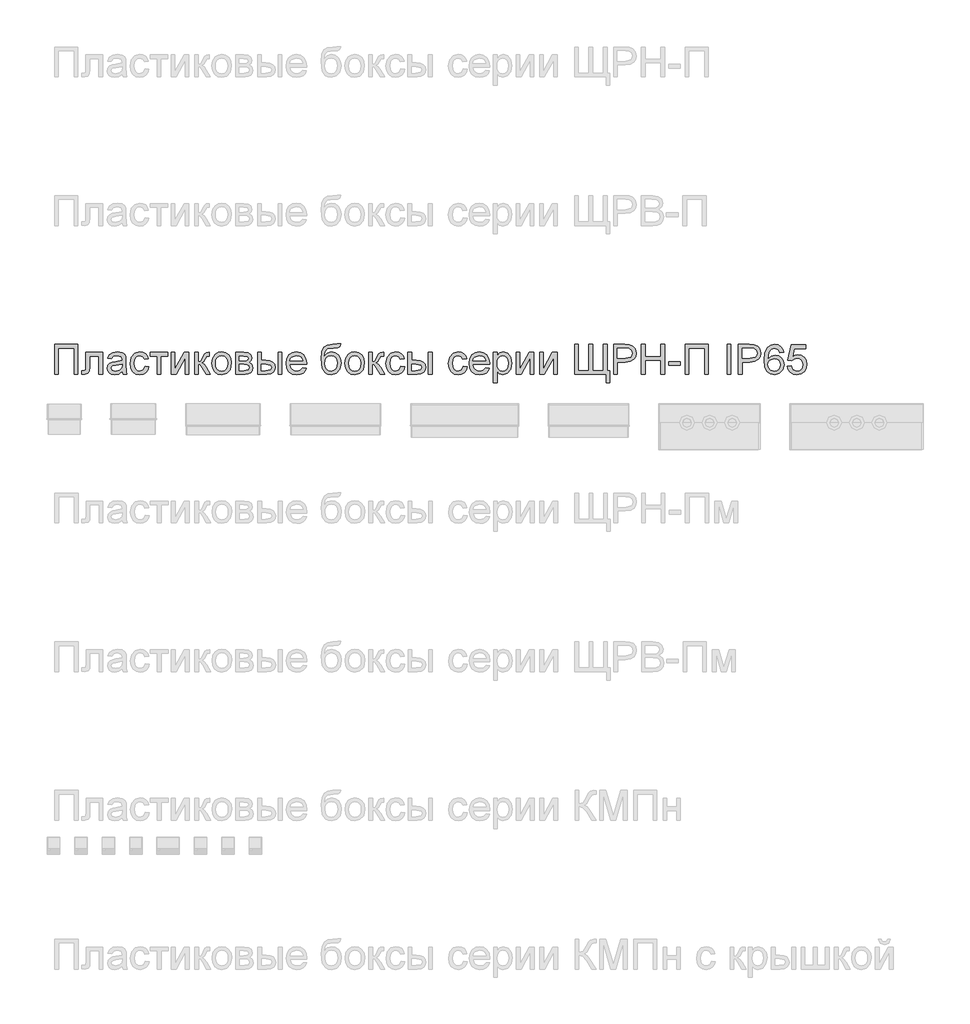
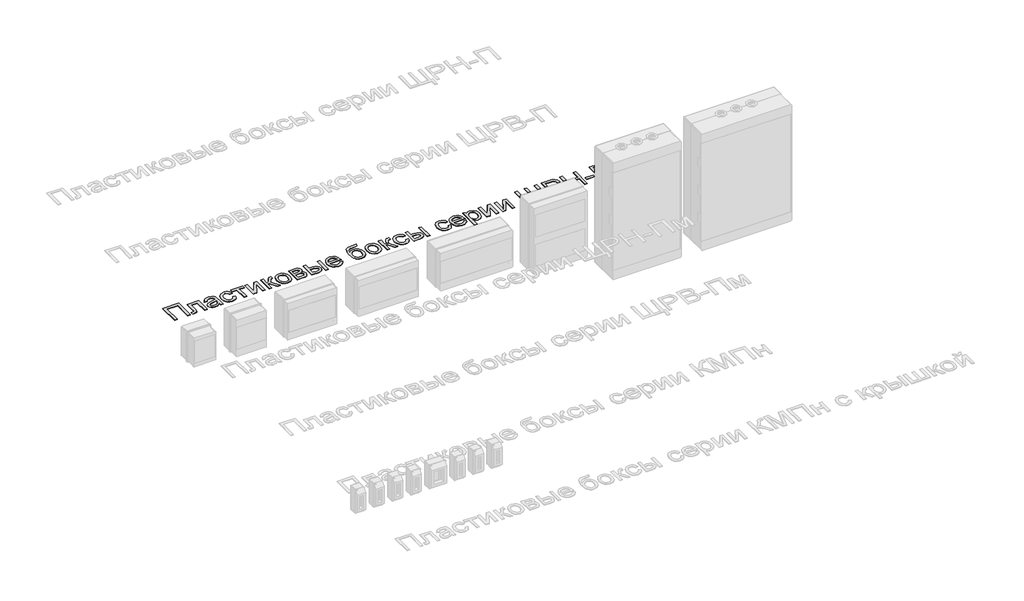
# One storey, part 24 of 25: 1 proxy.
"""IFC4 building model written with IfcOpenShell, lengths in millimetres."""

from ifc_helpers import new_model, si_unit, frame, origin, place, context, project, spatial, polyline, outline, extrude, element, save

model = new_model("IFC4")

# Units and contexts
model_context = context("Model", 3, world=origin())
ifc_project = project(units=[si_unit("LENGTHUNIT", "METRE", prefix="MILLI")], contexts=[model_context])

# Site, building, storey
site = spatial("IfcSite", under=ifc_project)
building = spatial("IfcBuilding", under=site)
storey = spatial("IfcBuildingStorey", under=building, Name="Этаж 01", Elevation=0.0)

# Proxy
placement = place(None, origin())
element("IfcBuildingElementProxy", 1, Name="Надпись на модели 1", ObjectType="Надпись на модели 1", at=placement, inside=storey, context=model_context, shape_type="SweptSolid", body=[
    extrude(outline(polyline([(-19039.0125911, 17636.6915941), (-18960.5310988, 17636.6915941), (-18960.5310988, 17536.235284), (-18973.0881375, 17536.235284), (-18973.0881375, 17624.1345554), (-19026.4555523, 17624.1345554), (-19026.4555523, 17536.235284), (-19039.0125911, 17536.235284), (-19039.0125911, 17636.6915941)])), frame((0.0, 0.0, 40.0), z_axis=(0.0, 0.0, 1.0), x_axis=(1.0, 0.0, 0.0)), (0.0, 0.0, 1.0), 2.0),
    extrude(outline(polyline([(-18933.8473914, 17610.0078868), (-18877.3407169, 17610.0078868), (-18877.3407169, 17536.3088604), (-18889.8977557, 17536.3088604), (-18889.8977557, 17597.450848), (-18921.2903526, 17597.450848), (-18921.2903526, 17562.2568038), (-18922.1364812, 17546.0209451), (-18926.7840571, 17539.1660772), (-18937.771466, 17536.235284), (-18947.97406, 17536.8729461), (-18947.97406, 17548.7923228), (-18942.3577282, 17548.7923228), (-18936.6800828, 17549.564875), (-18934.4114771, 17552.0174216), (-18933.8473914, 17562.9680423), (-18933.8473914, 17610.0078868)])), frame((0.0, 0.0, 40.0), z_axis=(0.0, 0.0, 1.0), x_axis=(1.0, 0.0, 0.0)), (0.0, 0.0, 1.0), 2.0),
    extrude(outline(polyline([(-18811.4162634, 17545.6530631), (-18823.5931574, 17537.1427262), (-18837.0453757, 17534.6656541), (-18847.5392096, 17536.1555762), (-18855.28006, 17540.6253425), (-18860.0533288, 17547.4127653), (-18861.6444185, 17555.8556571), (-18859.2409228, 17565.7884709), (-18852.9256152, 17572.998958), (-18844.1332355, 17577.1192364), (-18833.2684539, 17579.0076973), (-18811.4898398, 17583.3241794), (-18811.4162634, 17586.1200825), (-18814.8743541, 17595.3907088), (-18828.7557681, 17599.0204778), (-18841.4599597, 17596.6047194), (-18847.5177499, 17588.0330689), (-18860.0747886, 17589.6026988), (-18854.6423978, 17601.8654319), (-18843.7040398, 17609.0513936), (-18827.1370873, 17611.5775166), (-18811.9190355, 17609.3456992), (-18803.3228595, 17603.7416301), (-18799.4723613, 17595.2190306), (-18798.8592246, 17584.2316216), (-18798.8592246, 17568.6088996), (-18798.2215625, 17546.7934973), (-18795.7199649, 17536.235284), (-18808.2770037, 17536.235284), (-18811.4162634, 17545.6530631)]), holes=[polyline([(-18811.4162634, 17570.7671406), (-18831.6742986, 17566.9166424), (-18842.4777665, 17564.8810287), (-18847.3705971, 17561.5700907), (-18849.0873797, 17556.7385739), (-18845.3472461, 17549.9450197), (-18834.3720999, 17547.2226929), (-18821.6679083, 17550.2270625), (-18813.4764026, 17557.4988633), (-18811.4898398, 17567.210948), (-18811.4162634, 17570.7671406)])]), frame((0.0, 0.0, 40.0), z_axis=(0.0, 0.0, 1.0), x_axis=(1.0, 0.0, 0.0)), (0.0, 0.0, 1.0), 2.0),
    extrude(outline(polyline([(-18734.5044009, 17562.9189914), (-18721.9473622, 17561.3493615), (-18725.4483725, 17550.1810773), (-18732.0273288, 17541.7412512), (-18741.0649632, 17536.4345534), (-18751.9420075, 17534.6656541), (-18765.2991896, 17537.1335292), (-18775.7439726, 17544.5371544), (-18782.4854102, 17556.5515672), (-18784.732556, 17572.8518052), (-18780.8943205, 17593.7107144), (-18769.1956731, 17607.1138817), (-18752.1136858, 17611.5775166), (-18741.5033559, 17610.044675), (-18733.0206102, 17605.44615), (-18726.9352289, 17598.0271964), (-18723.516992, 17588.0330689), (-18736.0740308, 17586.4634391), (-18741.898829, 17595.8689554), (-18752.0155839, 17599.0204778), (-18760.1304476, 17597.4692421), (-18766.5714482, 17592.8155349), (-18770.7745, 17584.8079701), (-18772.1755172, 17573.1951618), (-18770.8051568, 17561.4260036), (-18766.6940755, 17553.3908477), (-18760.3695709, 17548.7647316), (-18752.3589404, 17547.2226929), (-18740.5254029, 17551.0731911), (-18734.5044009, 17562.9189914)])), frame((0.0, 0.0, 40.0), z_axis=(0.0, 0.0, 1.0), x_axis=(1.0, 0.0, 0.0)), (0.0, 0.0, 1.0), 2.0),
    extrude(outline(polyline([(-18717.2384726, 17610.0078868), (-18657.5925385, 17610.0078868), (-18657.5925385, 17597.450848), (-18681.1369862, 17597.450848), (-18681.1369862, 17536.235284), (-18693.6940249, 17536.235284), (-18693.6940249, 17597.450848), (-18717.2384726, 17597.450848), (-18717.2384726, 17610.0078868)])), frame((0.0, 0.0, 40.0), z_axis=(0.0, 0.0, 1.0), x_axis=(1.0, 0.0, 0.0)), (0.0, 0.0, 1.0), 2.0),
    extrude(outline(polyline([(-18646.6051296, 17610.0078868), (-18634.0480908, 17610.0078868), (-18634.0480908, 17553.746467), (-18603.1950541, 17610.0078868), (-18586.9591954, 17610.0078868), (-18586.9591954, 17536.235284), (-18599.5162342, 17536.235284), (-18599.5162342, 17592.1533473), (-18630.1730671, 17536.235284), (-18646.6051296, 17536.235284), (-18646.6051296, 17610.0078868)])), frame((0.0, 0.0, 40.0), z_axis=(0.0, 0.0, 1.0), x_axis=(1.0, 0.0, 0.0)), (0.0, 0.0, 1.0), 2.0),
    extrude(outline(polyline([(-18568.1236373, 17610.0078868), (-18555.5665985, 17610.0078868), (-18555.5665985, 17578.6152898), (-18547.1543635, 17580.8716327), (-18540.2627075, 17594.0172827), (-18534.5360111, 17605.3603109), (-18529.483765, 17609.0513936), (-18520.2989779, 17610.0078868), (-18517.8954822, 17610.0078868), (-18517.8954822, 17597.3772716), (-18521.2799965, 17597.450848), (-18527.4113631, 17596.1264728), (-18531.7278452, 17587.8613906), (-18536.792354, 17578.9218582), (-18543.8924765, 17574.5440624), (-18535.9707509, 17569.6573633), (-18528.196178, 17559.3627988), (-18514.7562225, 17536.235284), (-18529.0300439, 17536.235284), (-18542.2002193, 17558.8722894), (-18548.8220952, 17568.449484), (-18555.5665985, 17570.7671406), (-18555.5665985, 17536.235284), (-18568.1236373, 17536.235284), (-18568.1236373, 17610.0078868)])), frame((0.0, 0.0, 40.0), z_axis=(0.0, 0.0, 1.0), x_axis=(1.0, 0.0, 0.0)), (0.0, 0.0, 1.0), 2.0),
    extrude(outline(polyline([(-18510.0473329, 17573.1215854), (-18507.3311375, 17590.9086798), (-18499.1825514, 17603.4105363), (-18489.1148474, 17609.5357715), (-18477.0605807, 17611.5775166), (-18463.8689455, 17609.0912475), (-18453.332192, 17601.63244), (-18446.4252076, 17589.7897054), (-18444.1228794, 17574.151655), (-18448.1941068, 17551.8089551), (-18460.0521698, 17539.1660772), (-18477.0605807, 17534.6656541), (-18490.4116315, 17537.1427262), (-18500.9361222, 17544.5739426), (-18507.7695303, 17556.6649975), (-18510.0473329, 17573.1215854)]), holes=[polyline([(-18497.4902942, 17573.1461108), (-18496.0371603, 17561.7816229), (-18491.6777587, 17553.6851533), (-18485.1171964, 17548.838308), (-18477.0605807, 17547.2226929), (-18469.0407532, 17548.8475051), (-18462.4924537, 17553.7219415), (-18458.1330521, 17561.92571), (-18456.6799182, 17573.5385183), (-18458.1422491, 17584.5719125), (-18462.5292419, 17592.5580175), (-18469.0867385, 17597.4048627), (-18477.0605807, 17599.0204778), (-18485.1171964, 17597.4109941), (-18491.6777587, 17592.5825429), (-18496.0371603, 17584.5044674), (-18497.4902942, 17573.1461108)])]), frame((0.0, 0.0, 40.0), z_axis=(0.0, 0.0, 1.0), x_axis=(1.0, 0.0, 0.0)), (0.0, 0.0, 1.0), 2.0),
    extrude(outline(polyline([(-18429.9962108, 17610.0078868), (-18402.3314848, 17610.0078868), (-18387.1624838, 17608.3278923), (-18378.6276215, 17602.1720003), (-18375.0591662, 17591.4421087), (-18377.2174072, 17582.7233055), (-18383.7166558, 17576.5060997), (-18375.2798954, 17569.7002828), (-18371.9199065, 17557.8667453), (-18374.0474907, 17548.2956821), (-18379.1058681, 17541.5573102), (-18387.1134329, 17537.5657905), (-18398.0885791, 17536.235284), (-18429.9962108, 17536.235284), (-18429.9962108, 17610.0078868)]), holes=[polyline([(-18417.439172, 17548.7923228), (-18402.0371792, 17548.7923228), (-18388.3764944, 17551.0609284), (-18384.4769453, 17558.8968149), (-18386.6229236, 17564.9423424), (-18392.2147299, 17568.4617468), (-18403.2634525, 17569.1975108), (-18417.439172, 17569.1975108), (-18417.439172, 17548.7923228)]), polyline([(-18417.439172, 17581.7545495), (-18405.0292861, 17581.7545495), (-18394.7899039, 17582.3922117), (-18389.8112342, 17584.9428602), (-18387.616205, 17589.5536478), (-18391.4667032, 17595.7095399), (-18404.6368786, 17597.450848), (-18417.439172, 17597.450848), (-18417.439172, 17581.7545495)])]), frame((0.0, 0.0, 40.0), z_axis=(0.0, 0.0, 1.0), x_axis=(1.0, 0.0, 0.0)), (0.0, 0.0, 1.0), 2.0),
    extrude(outline(polyline([(-18287.1598948, 17610.0078868), (-18274.602856, 17610.0078868), (-18274.602856, 17536.235284), (-18287.1598948, 17536.235284), (-18287.1598948, 17610.0078868)])), frame((0.0, 0.0, 40.0), z_axis=(0.0, 0.0, 1.0), x_axis=(1.0, 0.0, 0.0)), (0.0, 0.0, 1.0), 2.0),
    extrude(outline(polyline([(-18356.223608, 17610.0078868), (-18343.6665693, 17610.0078868), (-18343.6665693, 17583.3241794), (-18328.1419491, 17583.3241794), (-18314.7234533, 17581.7514838), (-18304.7814424, 17577.0333973), (-18298.628616, 17569.5500643), (-18296.5776739, 17559.6816298), (-18298.2975222, 17550.6961121), (-18303.4570672, 17543.1146773), (-18312.393534, 17537.9551323), (-18325.4441478, 17536.235284), (-18356.223608, 17536.235284), (-18356.223608, 17610.0078868)]), holes=[polyline([(-18343.6665693, 17548.7923228), (-18330.766174, 17548.7923228), (-18314.1133823, 17551.4288104), (-18309.1347126, 17559.6571044), (-18312.8257953, 17567.3826263), (-18329.1229677, 17570.7671406), (-18343.6665693, 17570.7671406), (-18343.6665693, 17548.7923228)])]), frame((0.0, 0.0, 40.0), z_axis=(0.0, 0.0, 1.0), x_axis=(1.0, 0.0, 0.0)), (0.0, 0.0, 1.0), 2.0),
    extrude(outline(polyline([(-18204.1166658, 17558.2101018), (-18191.8048817, 17556.640472), (-18196.2409254, 17547.3637143), (-18203.3195881, 17540.4291387), (-18212.8814543, 17536.1065253), (-18224.7671084, 17534.6656541), (-18239.5007823, 17537.1519233), (-18250.8376791, 17544.6107308), (-18258.0665603, 17556.5576985), (-18260.4761874, 17572.5084487), (-18258.0420349, 17588.9956935), (-18250.7395773, 17601.3258717), (-18239.5559646, 17609.0146054), (-18225.4783469, 17611.5775166), (-18211.839122, 17609.0207367), (-18200.9406179, 17601.3503971), (-18193.7945101, 17589.0447444), (-18191.4124742, 17572.5820251), (-18191.4860506, 17569.1975108), (-18247.9191486, 17569.1975108), (-18245.7455792, 17559.7981258), (-18240.6963988, 17552.8880756), (-18233.4092696, 17548.6390386), (-18224.5218538, 17547.2226929), (-18212.2100697, 17549.8469178), (-18204.1166658, 17558.2101018)]), holes=[polyline([(-18247.9191486, 17581.7545495), (-18203.969513, 17581.7545495), (-18208.9972336, 17593.1343659), (-18216.3180853, 17597.5489499), (-18225.5273979, 17599.0204778), (-18240.9907044, 17594.323851), (-18245.8559438, 17588.8332123), (-18247.9191486, 17581.7545495)])]), frame((0.0, 0.0, 40.0), z_axis=(0.0, 0.0, 1.0), x_axis=(1.0, 0.0, 0.0)), (0.0, 0.0, 1.0), 2.0),
    extrude(outline(polyline([(-18087.8169043, 17638.261224), (-18076.8294954, 17638.261224), (-18080.066857, 17628.4633002), (-18086.4680037, 17624.9193703), (-18101.8454711, 17624.1345554), (-18122.5572274, 17621.2405503), (-18130.5034785, 17611.9699241), (-18133.1890171, 17595.5623871), (-18122.3119728, 17607.5798656), (-18108.2956687, 17611.5775166), (-18095.2297266, 17609.0360652), (-18084.6285937, 17601.4117108), (-18077.6020476, 17589.4524803), (-18075.2598656, 17573.9064003), (-18079.9074415, 17552.2994644), (-18090.9316386, 17539.2641791), (-18108.2956687, 17534.6656541), (-18119.6294999, 17536.1463792), (-18128.1245083, 17540.5885543), (-18138.9770271, 17555.7452925), (-18142.753949, 17587.9104416), (-18140.371913, 17612.0036466), (-18133.2258053, 17626.6974666), (-18121.1378161, 17634.1930623), (-18103.9301357, 17636.6915941), (-18089.9506199, 17636.973637), (-18087.8169043, 17638.261224)]), holes=[polyline([(-18087.8169043, 17574.2988078), (-18089.1780677, 17584.179505), (-18093.2615579, 17592.0920336), (-18099.8221201, 17597.2883668), (-18108.6144998, 17599.0204778), (-18117.7808929, 17597.1902649), (-18124.5805784, 17591.6996261), (-18128.7928272, 17583.1494354), (-18130.1969102, 17572.1405667), (-18128.6456744, 17561.4689232), (-18123.9919672, 17553.6361024), (-18117.063523, 17548.8260453), (-18108.6880762, 17547.2226929), (-18100.2697099, 17549.0774313), (-18093.6049144, 17554.6416465), (-18089.2639069, 17563.2654136), (-18087.8169043, 17574.2988078)])]), frame((0.0, 0.0, 40.0), z_axis=(0.0, 0.0, 1.0), x_axis=(1.0, 0.0, 0.0)), (0.0, 0.0, 1.0), 2.0),
    extrude(outline(polyline([(-18062.7028268, 17573.1215854), (-18059.9866314, 17590.9086798), (-18051.8380452, 17603.4105363), (-18041.7703413, 17609.5357715), (-18029.7160746, 17611.5775166), (-18016.5244394, 17609.0912475), (-18005.9876859, 17601.63244), (-17999.0807014, 17589.7897054), (-17996.7783733, 17574.151655), (-18000.8496007, 17551.8089551), (-18012.7076637, 17539.1660772), (-18029.7160746, 17534.6656541), (-18043.0671253, 17537.1427262), (-18053.5916161, 17544.5739426), (-18060.4250241, 17556.6649975), (-18062.7028268, 17573.1215854)]), holes=[polyline([(-18050.145788, 17573.1461108), (-18048.6926542, 17561.7816229), (-18044.3332525, 17553.6851533), (-18037.7726903, 17548.838308), (-18029.7160746, 17547.2226929), (-18021.6962471, 17548.8475051), (-18015.1479476, 17553.7219415), (-18010.7885459, 17561.92571), (-18009.335412, 17573.5385183), (-18010.797743, 17584.5719125), (-18015.1847358, 17592.5580175), (-18021.7422323, 17597.4048627), (-18029.7160746, 17599.0204778), (-18037.7726903, 17597.4109941), (-18044.3332525, 17592.5825429), (-18048.6926542, 17584.5044674), (-18050.145788, 17573.1461108)])]), frame((0.0, 0.0, 40.0), z_axis=(0.0, 0.0, 1.0), x_axis=(1.0, 0.0, 0.0)), (0.0, 0.0, 1.0), 2.0),
    extrude(outline(polyline([(-17982.6517047, 17610.0078868), (-17970.0946659, 17610.0078868), (-17970.0946659, 17578.6152898), (-17961.6824309, 17580.8716327), (-17954.7907749, 17594.0172827), (-17949.0640785, 17605.3603109), (-17944.0118324, 17609.0513936), (-17934.8270453, 17610.0078868), (-17932.4235496, 17610.0078868), (-17932.4235496, 17597.3772716), (-17935.8080639, 17597.450848), (-17941.9394305, 17596.1264728), (-17946.2559126, 17587.8613906), (-17951.3204214, 17578.9218582), (-17958.4205439, 17574.5440624), (-17950.4988183, 17569.6573633), (-17942.7242455, 17559.3627988), (-17929.2842899, 17536.235284), (-17943.5581113, 17536.235284), (-17956.7282867, 17558.8722894), (-17963.3501626, 17568.449484), (-17970.0946659, 17570.7671406), (-17970.0946659, 17536.235284), (-17982.6517047, 17536.235284), (-17982.6517047, 17610.0078868)])), frame((0.0, 0.0, 40.0), z_axis=(0.0, 0.0, 1.0), x_axis=(1.0, 0.0, 0.0)), (0.0, 0.0, 1.0), 2.0),
    extrude(outline(polyline([(-17874.3472453, 17562.9189914), (-17861.7902065, 17561.3493615), (-17865.2912168, 17550.1810773), (-17871.8701732, 17541.7412512), (-17880.9078075, 17536.4345534), (-17891.7848519, 17534.6656541), (-17905.142034, 17537.1335292), (-17915.5868169, 17544.5371544), (-17922.3282545, 17556.5515672), (-17924.5754004, 17572.8518052), (-17920.7371649, 17593.7107144), (-17909.0385174, 17607.1138817), (-17891.9565301, 17611.5775166), (-17881.3462002, 17610.044675), (-17872.8634546, 17605.44615), (-17866.7780732, 17598.0271964), (-17863.3598364, 17588.0330689), (-17875.9168751, 17586.4634391), (-17881.7416734, 17595.8689554), (-17891.8584283, 17599.0204778), (-17899.9732919, 17597.4692421), (-17906.4142925, 17592.8155349), (-17910.6173443, 17584.8079701), (-17912.0183616, 17573.1951618), (-17910.6480012, 17561.4260036), (-17906.5369199, 17553.3908477), (-17900.2124152, 17548.7647316), (-17892.2017848, 17547.2226929), (-17880.3682473, 17551.0731911), (-17874.3472453, 17562.9189914)])), frame((0.0, 0.0, 40.0), z_axis=(0.0, 0.0, 1.0), x_axis=(1.0, 0.0, 0.0)), (0.0, 0.0, 1.0), 2.0),
    extrude(outline(polyline([(-17781.7390844, 17610.0078868), (-17769.1820456, 17610.0078868), (-17769.1820456, 17536.235284), (-17781.7390844, 17536.235284), (-17781.7390844, 17610.0078868)])), frame((0.0, 0.0, 40.0), z_axis=(0.0, 0.0, 1.0), x_axis=(1.0, 0.0, 0.0)), (0.0, 0.0, 1.0), 2.0),
    extrude(outline(polyline([(-17850.8027976, 17610.0078868), (-17838.2457588, 17610.0078868), (-17838.2457588, 17583.3241794), (-17822.7211386, 17583.3241794), (-17809.3026428, 17581.7514838), (-17799.3606319, 17577.0333973), (-17793.2078056, 17569.5500643), (-17791.1568634, 17559.6816298), (-17792.8767118, 17550.6961121), (-17798.0362567, 17543.1146773), (-17806.9727235, 17537.9551323), (-17820.0233373, 17536.235284), (-17850.8027976, 17536.235284), (-17850.8027976, 17610.0078868)]), holes=[polyline([(-17838.2457588, 17548.7923228), (-17825.3453635, 17548.7923228), (-17808.6925719, 17551.4288104), (-17803.7139022, 17559.6571044), (-17807.4049849, 17567.3826263), (-17823.7021573, 17570.7671406), (-17838.2457588, 17570.7671406), (-17838.2457588, 17548.7923228)])]), frame((0.0, 0.0, 40.0), z_axis=(0.0, 0.0, 1.0), x_axis=(1.0, 0.0, 0.0)), (0.0, 0.0, 1.0), 2.0),
    extrude(outline(polyline([(-17664.0168459, 17562.9189914), (-17651.4598071, 17561.3493615), (-17654.9608175, 17550.1810773), (-17661.5397738, 17541.7412512), (-17670.5774082, 17536.4345534), (-17681.4544525, 17534.6656541), (-17694.8116346, 17537.1335292), (-17705.2564176, 17544.5371544), (-17711.9978551, 17556.5515672), (-17714.245001, 17572.8518052), (-17710.4067655, 17593.7107144), (-17698.708118, 17607.1138817), (-17681.6261307, 17611.5775166), (-17671.0158009, 17610.044675), (-17662.5330552, 17605.44615), (-17656.4476739, 17598.0271964), (-17653.029437, 17588.0330689), (-17665.5864758, 17586.4634391), (-17671.411274, 17595.8689554), (-17681.5280289, 17599.0204778), (-17689.6428926, 17597.4692421), (-17696.0838932, 17592.8155349), (-17700.2869449, 17584.8079701), (-17701.6879622, 17573.1951618), (-17700.3176018, 17561.4260036), (-17696.2065205, 17553.3908477), (-17689.8820158, 17548.7647316), (-17681.8713854, 17547.2226929), (-17670.0378479, 17551.0731911), (-17664.0168459, 17562.9189914)])), frame((0.0, 0.0, 40.0), z_axis=(0.0, 0.0, 1.0), x_axis=(1.0, 0.0, 0.0)), (0.0, 0.0, 1.0), 2.0),
    extrude(outline(polyline([(-17588.8217661, 17558.2101018), (-17576.509982, 17556.640472), (-17580.9460257, 17547.3637143), (-17588.0246884, 17540.4291387), (-17597.5865546, 17536.1065253), (-17609.4722088, 17534.6656541), (-17624.2058827, 17537.1519233), (-17635.5427795, 17544.6107308), (-17642.7716607, 17556.5576985), (-17645.1812878, 17572.5084487), (-17642.7471352, 17588.9956935), (-17635.4446776, 17601.3258717), (-17624.261065, 17609.0146054), (-17610.1834473, 17611.5775166), (-17596.5442223, 17609.0207367), (-17585.6457182, 17601.3503971), (-17578.4996104, 17589.0447444), (-17576.1175745, 17572.5820251), (-17576.1911509, 17569.1975108), (-17632.624249, 17569.1975108), (-17630.4506795, 17559.7981258), (-17625.4014991, 17552.8880756), (-17618.11437, 17548.6390386), (-17609.2269541, 17547.2226929), (-17596.91517, 17549.8469178), (-17588.8217661, 17558.2101018)]), holes=[polyline([(-17632.624249, 17581.7545495), (-17588.6746133, 17581.7545495), (-17593.7023339, 17593.1343659), (-17601.0231856, 17597.5489499), (-17610.2324982, 17599.0204778), (-17625.6958047, 17594.323851), (-17630.5610441, 17588.8332123), (-17632.624249, 17581.7545495)])]), frame((0.0, 0.0, 40.0), z_axis=(0.0, 0.0, 1.0), x_axis=(1.0, 0.0, 0.0)), (0.0, 0.0, 1.0), 2.0),
    extrude(outline(polyline([(-17563.5605358, 17507.9819468), (-17563.5605358, 17610.0078868), (-17551.003497, 17610.0078868), (-17551.003497, 17597.6961027), (-17542.3214819, 17608.1071631), (-17530.598309, 17611.5775166), (-17514.6812813, 17606.7214743), (-17504.2824836, 17593.036264), (-17500.7753419, 17573.6856711), (-17504.7362047, 17553.3417968), (-17516.2386484, 17539.4849083), (-17532.1188879, 17534.6656541), (-17543.0449832, 17537.890753), (-17551.003497, 17546.0454705), (-17551.003497, 17507.9819468), (-17563.5605358, 17507.9819468)]), holes=[polyline([(-17551.003497, 17572.5329742), (-17549.6453993, 17561.2757851), (-17545.5711062, 17553.4031104), (-17539.5593013, 17548.7677973), (-17532.388668, 17547.2226929), (-17525.1015388, 17548.8229796), (-17518.9364497, 17553.6238396), (-17514.7333979, 17561.7846886), (-17513.3323807, 17573.4649419), (-17514.6996754, 17584.6608173), (-17518.8015597, 17592.6438566), (-17524.8041676, 17597.4263225), (-17531.8736332, 17599.0204778), (-17538.9706901, 17597.325155), (-17545.2032242, 17592.2391864), (-17549.5534288, 17583.9219876), (-17551.003497, 17572.5329742)])]), frame((0.0, 0.0, 40.0), z_axis=(0.0, 0.0, 1.0), x_axis=(1.0, 0.0, 0.0)), (0.0, 0.0, 1.0), 2.0),
    extrude(outline(polyline([(-17486.6486733, 17610.0078868), (-17474.0916345, 17610.0078868), (-17474.0916345, 17553.746467), (-17443.2385979, 17610.0078868), (-17427.0027391, 17610.0078868), (-17427.0027391, 17536.235284), (-17439.5597779, 17536.235284), (-17439.5597779, 17592.1533473), (-17470.2166108, 17536.235284), (-17486.6486733, 17536.235284), (-17486.6486733, 17610.0078868)])), frame((0.0, 0.0, 40.0), z_axis=(0.0, 0.0, 1.0), x_axis=(1.0, 0.0, 0.0)), (0.0, 0.0, 1.0), 2.0),
    extrude(outline(polyline([(-17408.167181, 17610.0078868), (-17395.6101422, 17610.0078868), (-17395.6101422, 17553.746467), (-17364.7571056, 17610.0078868), (-17348.5212468, 17610.0078868), (-17348.5212468, 17536.235284), (-17361.0782856, 17536.235284), (-17361.0782856, 17592.1533473), (-17391.7351185, 17536.235284), (-17408.167181, 17536.235284), (-17408.167181, 17610.0078868)])), frame((0.0, 0.0, 40.0), z_axis=(0.0, 0.0, 1.0), x_axis=(1.0, 0.0, 0.0)), (0.0, 0.0, 1.0), 2.0),
    extrude(outline(polyline([(-17290.4449425, 17636.6915941), (-17277.8879038, 17636.6915941), (-17277.8879038, 17548.7923228), (-17241.7864173, 17548.7923228), (-17241.7864173, 17636.6915941), (-17229.2293785, 17636.6915941), (-17229.2293785, 17548.7923228), (-17193.1278921, 17548.7923228), (-17193.1278921, 17636.6915941), (-17180.5708533, 17636.6915941), (-17180.5708533, 17548.7923228), (-17171.1530742, 17548.7923228), (-17171.1530742, 17507.9819468), (-17183.710113, 17507.9819468), (-17183.710113, 17536.235284), (-17290.4449425, 17536.235284), (-17290.4449425, 17636.6915941)])), frame((0.0, 0.0, 40.0), z_axis=(0.0, 0.0, 1.0), x_axis=(1.0, 0.0, 0.0)), (0.0, 0.0, 1.0), 2.0),
    extrude(outline(polyline([(-17158.5960355, 17536.235284), (-17158.5960355, 17636.6915941), (-17121.3663776, 17636.6915941), (-17106.3567921, 17635.735101), (-17094.1553726, 17631.0384742), (-17086.2459097, 17621.3263895), (-17083.2538029, 17607.6289165), (-17085.2740881, 17595.7892476), (-17091.334944, 17585.9238788), (-17102.6687751, 17579.2652147), (-17120.5079862, 17577.04566), (-17146.0389967, 17577.04566), (-17146.0389967, 17536.235284), (-17158.5960355, 17536.235284)]), holes=[polyline([(-17146.0389967, 17589.6026988), (-17119.7722222, 17589.6026988), (-17101.2800206, 17594.2134864), (-17097.1781364, 17599.7623732), (-17095.8108416, 17607.1874581), (-17099.0359404, 17617.5862559), (-17107.5094891, 17623.2761641), (-17120.0665278, 17624.1345554), (-17146.0389967, 17624.1345554), (-17146.0389967, 17589.6026988)])]), frame((0.0, 0.0, 40.0), z_axis=(0.0, 0.0, 1.0), x_axis=(1.0, 0.0, 0.0)), (0.0, 0.0, 1.0), 2.0),
    extrude(outline(polyline([(-17065.9878745, 17536.235284), (-17065.9878745, 17636.6915941), (-17053.4308358, 17636.6915941), (-17053.4308358, 17595.8812181), (-17000.063421, 17595.8812181), (-17000.063421, 17636.6915941), (-16987.5063822, 17636.6915941), (-16987.5063822, 17536.235284), (-17000.063421, 17536.235284), (-17000.063421, 17583.3241794), (-17053.4308358, 17583.3241794), (-17053.4308358, 17536.235284), (-17065.9878745, 17536.235284)])), frame((0.0, 0.0, 40.0), z_axis=(0.0, 0.0, 1.0), x_axis=(1.0, 0.0, 0.0)), (0.0, 0.0, 1.0), 2.0),
    extrude(outline(polyline([(-16973.3797136, 17566.0582511), (-16973.3797136, 17578.6152898), (-16934.1389675, 17578.6152898), (-16934.1389675, 17566.0582511), (-16973.3797136, 17566.0582511)])), frame((0.0, 0.0, 40.0), z_axis=(0.0, 0.0, 1.0), x_axis=(1.0, 0.0, 0.0)), (0.0, 0.0, 1.0), 2.0),
    extrude(outline(polyline([(-16918.442669, 17636.6915941), (-16839.9611767, 17636.6915941), (-16839.9611767, 17536.235284), (-16852.5182155, 17536.235284), (-16852.5182155, 17624.1345554), (-16905.8856302, 17624.1345554), (-16905.8856302, 17536.235284), (-16918.442669, 17536.235284), (-16918.442669, 17636.6915941)])), frame((0.0, 0.0, 40.0), z_axis=(0.0, 0.0, 1.0), x_axis=(1.0, 0.0, 0.0)), (0.0, 0.0, 1.0), 2.0),
    extrude(outline(polyline([(-16777.1759829, 17536.235284), (-16777.1759829, 17636.6915941), (-16764.6189441, 17636.6915941), (-16764.6189441, 17536.235284), (-16777.1759829, 17536.235284)])), frame((0.0, 0.0, 40.0), z_axis=(0.0, 0.0, 1.0), x_axis=(1.0, 0.0, 0.0)), (0.0, 0.0, 1.0), 2.0),
    extrude(outline(polyline([(-16739.5048666, 17536.235284), (-16739.5048666, 17636.6915941), (-16702.2752086, 17636.6915941), (-16687.2656232, 17635.735101), (-16675.0642037, 17631.0384742), (-16667.1547408, 17621.3263895), (-16664.1626339, 17607.6289165), (-16666.1829192, 17595.7892476), (-16672.2437751, 17585.9238788), (-16683.5776062, 17579.2652147), (-16701.4168173, 17577.04566), (-16726.9478278, 17577.04566), (-16726.9478278, 17536.235284), (-16739.5048666, 17536.235284)]), holes=[polyline([(-16726.9478278, 17589.6026988), (-16700.6810533, 17589.6026988), (-16682.1888517, 17594.2134864), (-16678.0869675, 17599.7623732), (-16676.7196727, 17607.1874581), (-16679.9447715, 17617.5862559), (-16688.4183202, 17623.2761641), (-16700.9753589, 17624.1345554), (-16726.9478278, 17624.1345554), (-16726.9478278, 17589.6026988)])]), frame((0.0, 0.0, 40.0), z_axis=(0.0, 0.0, 1.0), x_axis=(1.0, 0.0, 0.0)), (0.0, 0.0, 1.0), 2.0),
    extrude(outline(polyline([(-16587.2507715, 17610.0078868), (-16599.8078103, 17608.4382569), (-16604.5657507, 17618.910631), (-16617.147315, 17624.1345554), (-16628.4780804, 17621.0933975), (-16637.0497309, 17609.676793), (-16640.6181863, 17587.2973049), (-16629.5449382, 17597.3159579), (-16615.8229398, 17600.5901077), (-16604.2223942, 17598.3521589), (-16594.4857841, 17591.6383125), (-16587.8823022, 17581.3805362), (-16585.6811416, 17568.5107977), (-16589.8259455, 17551.1835557), (-16601.2302873, 17538.9208226), (-16617.6868752, 17534.6656541), (-16631.9331055, 17537.4860828), (-16643.2791994, 17545.9473687), (-16650.7012186, 17560.8833777), (-16653.175225, 17583.1279756), (-16650.4283728, 17608.13782), (-16642.1878161, 17625.2382014), (-16630.9367584, 17633.8282459), (-16616.3625, 17636.6915941), (-16605.3444343, 17634.9196292), (-16596.5213978, 17629.6037344), (-16590.3409802, 17621.1608426), (-16587.2507715, 17610.0078868)]), holes=[polyline([(-16640.6181863, 17568.7070014), (-16637.7119185, 17557.8299571), (-16629.9863966, 17549.9327569), (-16618.6678939, 17547.2226929), (-16610.3813519, 17548.6267759), (-16603.8667749, 17552.8390247), (-16599.645329, 17559.4609006), (-16598.2381804, 17568.0938648), (-16599.6269349, 17576.3804067), (-16603.7931985, 17582.69878), (-16610.4181401, 17586.6994967), (-16619.1829287, 17588.0330689), (-16634.3764551, 17582.69878), (-16639.0577535, 17576.5336909), (-16640.6181863, 17568.7070014)])]), frame((0.0, 0.0, 40.0), z_axis=(0.0, 0.0, 1.0), x_axis=(1.0, 0.0, 0.0)), (0.0, 0.0, 1.0), 2.0),
    extrude(outline(polyline([(-16574.6937327, 17562.9189914), (-16562.136694, 17564.4886212), (-16555.8091236, 17551.5514377), (-16542.6879991, 17547.2226929), (-16533.687153, 17548.7279434), (-16526.9426497, 17553.2436949), (-16522.7304009, 17560.2487812), (-16521.326318, 17569.2220362), (-16526.5870305, 17584.1335198), (-16533.193578, 17588.235404), (-16542.4917954, 17589.6026988), (-16553.5159925, 17587.4199323), (-16560.5670641, 17581.7545495), (-16573.1241029, 17583.3241794), (-16562.136694, 17635.1219643), (-16513.4781687, 17635.1219643), (-16513.4781687, 17622.5649255), (-16551.9831509, 17622.5649255), (-16557.354228, 17594.9001995), (-16548.3840387, 17600.344853), (-16538.9846537, 17602.1597375), (-16527.2522838, 17599.909526), (-16517.5126079, 17593.1588914), (-16510.9551114, 17582.8704582), (-16508.7692792, 17570.0068512), (-16510.7374479, 17557.4498124), (-16516.6419539, 17546.7076581), (-16527.9481939, 17537.6761551), (-16542.7370501, 17534.6656541), (-16555.070294, 17536.6001003), (-16564.8958089, 17542.4034388), (-16571.6311151, 17551.4012192), (-16574.6937327, 17562.9189914)])), frame((0.0, 0.0, 40.0), z_axis=(0.0, 0.0, 1.0), x_axis=(1.0, 0.0, 0.0)), (0.0, 0.0, 1.0), 2.0),
])

save(model, "model.ifc")
